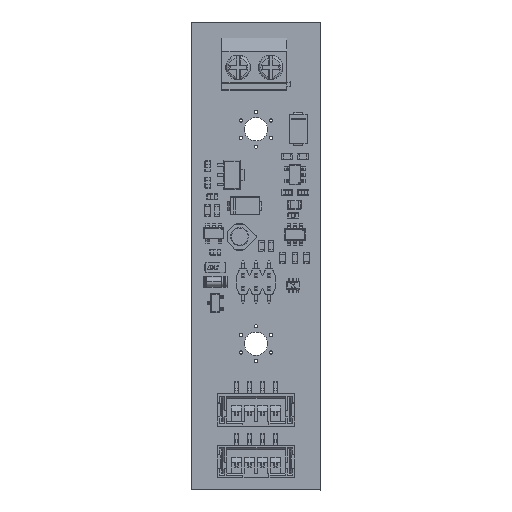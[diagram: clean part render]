
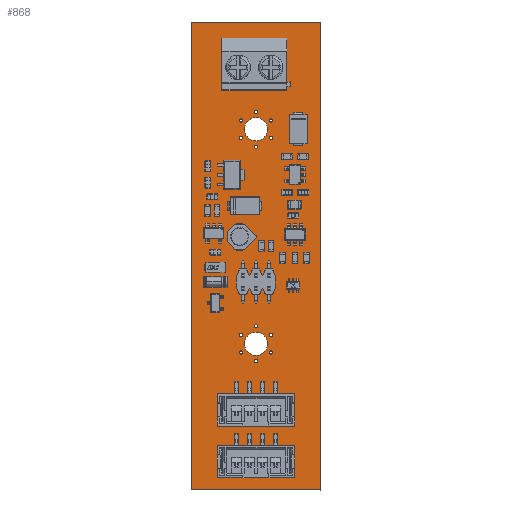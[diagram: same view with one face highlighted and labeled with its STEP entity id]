
A CAD part, top view. The second image highlights one B-rep face of the part: STEP entity #868.
In plain terms, the highlighted planar face has unit normal (0, 0, 1).
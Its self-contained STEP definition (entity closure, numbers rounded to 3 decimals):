
#163 = VERTEX_POINT('',#164);
#164 = CARTESIAN_POINT('',(0.,0.,1.646));
#170 = EDGE_CURVE('',#163,#171,#173,.T.);
#171 = VERTEX_POINT('',#172);
#172 = CARTESIAN_POINT('',(20.,0.,1.646));
#173 = LINE('',#174,#175);
#174 = CARTESIAN_POINT('',(0.,0.,1.646));
#175 = VECTOR('',#176,1.);
#176 = DIRECTION('',(1.,0.,0.));
#201 = EDGE_CURVE('',#171,#202,#204,.T.);
#202 = VERTEX_POINT('',#203);
#203 = CARTESIAN_POINT('',(20.,72.,1.646));
#204 = LINE('',#205,#206);
#205 = CARTESIAN_POINT('',(20.,0.,1.646));
#206 = VECTOR('',#207,1.);
#207 = DIRECTION('',(0.,1.,0.));
#232 = EDGE_CURVE('',#202,#233,#235,.T.);
#233 = VERTEX_POINT('',#234);
#234 = CARTESIAN_POINT('',(0.,72.,1.646));
#235 = LINE('',#236,#237);
#236 = CARTESIAN_POINT('',(20.,72.,1.646));
#237 = VECTOR('',#238,1.);
#238 = DIRECTION('',(-1.,0.,0.));
#263 = EDGE_CURVE('',#233,#163,#264,.T.);
#264 = LINE('',#265,#266);
#265 = CARTESIAN_POINT('',(0.,72.,1.646));
#266 = VECTOR('',#267,1.);
#267 = DIRECTION('',(0.,-1.,0.));
#287 = VERTEX_POINT('',#288);
#288 = CARTESIAN_POINT('',(7.933,21.163,1.646));
#294 = EDGE_CURVE('',#287,#287,#295,.T.);
#295 = CIRCLE('',#296,0.25);
#296 = AXIS2_PLACEMENT_3D('',#297,#298,#299);
#297 = CARTESIAN_POINT('',(7.683,21.163,1.646));
#298 = DIRECTION('',(0.,0.,1.));
#299 = DIRECTION('',(1.,0.,0.));
#320 = VERTEX_POINT('',#321);
#321 = CARTESIAN_POINT('',(7.933,23.838,1.646));
#327 = EDGE_CURVE('',#320,#320,#328,.T.);
#328 = CIRCLE('',#329,0.25);
#329 = AXIS2_PLACEMENT_3D('',#330,#331,#332);
#330 = CARTESIAN_POINT('',(7.683,23.838,1.646));
#331 = DIRECTION('',(0.,0.,1.));
#332 = DIRECTION('',(1.,0.,0.));
#353 = VERTEX_POINT('',#354);
#354 = CARTESIAN_POINT('',(11.8,22.5,1.646));
#360 = EDGE_CURVE('',#353,#353,#361,.T.);
#361 = CIRCLE('',#362,1.8);
#362 = AXIS2_PLACEMENT_3D('',#363,#364,#365);
#363 = CARTESIAN_POINT('',(10.,22.5,1.646));
#364 = DIRECTION('',(0.,0.,1.));
#365 = DIRECTION('',(1.,0.,0.));
#386 = VERTEX_POINT('',#387);
#387 = CARTESIAN_POINT('',(11.8,55.5,1.646));
#393 = EDGE_CURVE('',#386,#386,#394,.T.);
#394 = CIRCLE('',#395,1.8);
#395 = AXIS2_PLACEMENT_3D('',#396,#397,#398);
#396 = CARTESIAN_POINT('',(10.,55.5,1.646));
#397 = DIRECTION('',(0.,0.,1.));
#398 = DIRECTION('',(1.,0.,0.));
#419 = VERTEX_POINT('',#420);
#420 = CARTESIAN_POINT('',(7.933,54.163,1.646));
#426 = EDGE_CURVE('',#419,#419,#427,.T.);
#427 = CIRCLE('',#428,0.25);
#428 = AXIS2_PLACEMENT_3D('',#429,#430,#431);
#429 = CARTESIAN_POINT('',(7.683,54.163,1.646));
#430 = DIRECTION('',(0.,0.,1.));
#431 = DIRECTION('',(1.,0.,0.));
#452 = VERTEX_POINT('',#453);
#453 = CARTESIAN_POINT('',(7.933,56.838,1.646));
#459 = EDGE_CURVE('',#452,#452,#460,.T.);
#460 = CIRCLE('',#461,0.25);
#461 = AXIS2_PLACEMENT_3D('',#462,#463,#464);
#462 = CARTESIAN_POINT('',(7.683,56.838,1.646));
#463 = DIRECTION('',(0.,0.,1.));
#464 = DIRECTION('',(1.,0.,0.));
#485 = VERTEX_POINT('',#486);
#486 = CARTESIAN_POINT('',(10.25,58.175,1.646));
#492 = EDGE_CURVE('',#485,#485,#493,.T.);
#493 = CIRCLE('',#494,0.25);
#494 = AXIS2_PLACEMENT_3D('',#495,#496,#497);
#495 = CARTESIAN_POINT('',(10.,58.175,1.646));
#496 = DIRECTION('',(0.,0.,1.));
#497 = DIRECTION('',(1.,0.,0.));
#518 = VERTEX_POINT('',#519);
#519 = CARTESIAN_POINT('',(8.,65.,1.646));
#525 = EDGE_CURVE('',#518,#518,#526,.T.);
#526 = CIRCLE('',#527,0.75);
#527 = AXIS2_PLACEMENT_3D('',#528,#529,#530);
#528 = CARTESIAN_POINT('',(7.25,65.,1.646));
#529 = DIRECTION('',(0.,0.,1.));
#530 = DIRECTION('',(1.,0.,0.));
#551 = VERTEX_POINT('',#552);
#552 = CARTESIAN_POINT('',(10.25,19.825,1.646));
#558 = EDGE_CURVE('',#551,#551,#559,.T.);
#559 = CIRCLE('',#560,0.25);
#560 = AXIS2_PLACEMENT_3D('',#561,#562,#563);
#561 = CARTESIAN_POINT('',(10.,19.825,1.646));
#562 = DIRECTION('',(0.,0.,1.));
#563 = DIRECTION('',(1.,0.,0.));
#584 = VERTEX_POINT('',#585);
#585 = CARTESIAN_POINT('',(10.25,25.175,1.646));
#591 = EDGE_CURVE('',#584,#584,#592,.T.);
#592 = CIRCLE('',#593,0.25);
#593 = AXIS2_PLACEMENT_3D('',#594,#595,#596);
#594 = CARTESIAN_POINT('',(10.,25.175,1.646));
#595 = DIRECTION('',(0.,0.,1.));
#596 = DIRECTION('',(1.,0.,0.));
#617 = VERTEX_POINT('',#618);
#618 = CARTESIAN_POINT('',(12.567,21.163,1.646));
#624 = EDGE_CURVE('',#617,#617,#625,.T.);
#625 = CIRCLE('',#626,0.25);
#626 = AXIS2_PLACEMENT_3D('',#627,#628,#629);
#627 = CARTESIAN_POINT('',(12.317,21.163,1.646));
#628 = DIRECTION('',(0.,0.,1.));
#629 = DIRECTION('',(1.,0.,0.));
#650 = VERTEX_POINT('',#651);
#651 = CARTESIAN_POINT('',(12.567,23.838,1.646));
#657 = EDGE_CURVE('',#650,#650,#658,.T.);
#658 = CIRCLE('',#659,0.25);
#659 = AXIS2_PLACEMENT_3D('',#660,#661,#662);
#660 = CARTESIAN_POINT('',(12.317,23.838,1.646));
#661 = DIRECTION('',(0.,0.,1.));
#662 = DIRECTION('',(1.,0.,0.));
#683 = VERTEX_POINT('',#684);
#684 = CARTESIAN_POINT('',(10.25,52.825,1.646));
#690 = EDGE_CURVE('',#683,#683,#691,.T.);
#691 = CIRCLE('',#692,0.25);
#692 = AXIS2_PLACEMENT_3D('',#693,#694,#695);
#693 = CARTESIAN_POINT('',(10.,52.825,1.646));
#694 = DIRECTION('',(0.,0.,1.));
#695 = DIRECTION('',(1.,0.,0.));
#716 = VERTEX_POINT('',#717);
#717 = CARTESIAN_POINT('',(12.567,54.163,1.646));
#723 = EDGE_CURVE('',#716,#716,#724,.T.);
#724 = CIRCLE('',#725,0.25);
#725 = AXIS2_PLACEMENT_3D('',#726,#727,#728);
#726 = CARTESIAN_POINT('',(12.317,54.163,1.646));
#727 = DIRECTION('',(0.,0.,1.));
#728 = DIRECTION('',(1.,0.,0.));
#749 = VERTEX_POINT('',#750);
#750 = CARTESIAN_POINT('',(12.567,56.838,1.646));
#756 = EDGE_CURVE('',#749,#749,#757,.T.);
#757 = CIRCLE('',#758,0.25);
#758 = AXIS2_PLACEMENT_3D('',#759,#760,#761);
#759 = CARTESIAN_POINT('',(12.317,56.838,1.646));
#760 = DIRECTION('',(0.,0.,1.));
#761 = DIRECTION('',(1.,0.,0.));
#782 = VERTEX_POINT('',#783);
#783 = CARTESIAN_POINT('',(13.,65.,1.646));
#789 = EDGE_CURVE('',#782,#782,#790,.T.);
#790 = CIRCLE('',#791,0.75);
#791 = AXIS2_PLACEMENT_3D('',#792,#793,#794);
#792 = CARTESIAN_POINT('',(12.25,65.,1.646));
#793 = DIRECTION('',(0.,0.,1.));
#794 = DIRECTION('',(1.,0.,0.));
#868 = ADVANCED_FACE('',(#869,#875,#878,#881,#884,#887,#890,#893,#896,
    #899,#902,#905,#908,#911,#914,#917,#920),#923,.F.);
#869 = FACE_BOUND('',#870,.T.);
#870 = EDGE_LOOP('',(#871,#872,#873,#874));
#871 = ORIENTED_EDGE('',*,*,#170,.T.);
#872 = ORIENTED_EDGE('',*,*,#201,.T.);
#873 = ORIENTED_EDGE('',*,*,#232,.T.);
#874 = ORIENTED_EDGE('',*,*,#263,.T.);
#875 = FACE_BOUND('',#876,.F.);
#876 = EDGE_LOOP('',(#877));
#877 = ORIENTED_EDGE('',*,*,#294,.T.);
#878 = FACE_BOUND('',#879,.F.);
#879 = EDGE_LOOP('',(#880));
#880 = ORIENTED_EDGE('',*,*,#327,.T.);
#881 = FACE_BOUND('',#882,.F.);
#882 = EDGE_LOOP('',(#883));
#883 = ORIENTED_EDGE('',*,*,#360,.T.);
#884 = FACE_BOUND('',#885,.F.);
#885 = EDGE_LOOP('',(#886));
#886 = ORIENTED_EDGE('',*,*,#393,.T.);
#887 = FACE_BOUND('',#888,.F.);
#888 = EDGE_LOOP('',(#889));
#889 = ORIENTED_EDGE('',*,*,#426,.T.);
#890 = FACE_BOUND('',#891,.F.);
#891 = EDGE_LOOP('',(#892));
#892 = ORIENTED_EDGE('',*,*,#459,.T.);
#893 = FACE_BOUND('',#894,.F.);
#894 = EDGE_LOOP('',(#895));
#895 = ORIENTED_EDGE('',*,*,#492,.T.);
#896 = FACE_BOUND('',#897,.F.);
#897 = EDGE_LOOP('',(#898));
#898 = ORIENTED_EDGE('',*,*,#525,.T.);
#899 = FACE_BOUND('',#900,.F.);
#900 = EDGE_LOOP('',(#901));
#901 = ORIENTED_EDGE('',*,*,#558,.T.);
#902 = FACE_BOUND('',#903,.F.);
#903 = EDGE_LOOP('',(#904));
#904 = ORIENTED_EDGE('',*,*,#591,.T.);
#905 = FACE_BOUND('',#906,.F.);
#906 = EDGE_LOOP('',(#907));
#907 = ORIENTED_EDGE('',*,*,#624,.T.);
#908 = FACE_BOUND('',#909,.F.);
#909 = EDGE_LOOP('',(#910));
#910 = ORIENTED_EDGE('',*,*,#657,.T.);
#911 = FACE_BOUND('',#912,.F.);
#912 = EDGE_LOOP('',(#913));
#913 = ORIENTED_EDGE('',*,*,#690,.T.);
#914 = FACE_BOUND('',#915,.F.);
#915 = EDGE_LOOP('',(#916));
#916 = ORIENTED_EDGE('',*,*,#723,.T.);
#917 = FACE_BOUND('',#918,.F.);
#918 = EDGE_LOOP('',(#919));
#919 = ORIENTED_EDGE('',*,*,#756,.T.);
#920 = FACE_BOUND('',#921,.F.);
#921 = EDGE_LOOP('',(#922));
#922 = ORIENTED_EDGE('',*,*,#789,.T.);
#923 = PLANE('',#924);
#924 = AXIS2_PLACEMENT_3D('',#925,#926,#927);
#925 = CARTESIAN_POINT('',(0.,0.,1.646));
#926 = DIRECTION('',(0.,0.,-1.));
#927 = DIRECTION('',(-1.,0.,0.));
